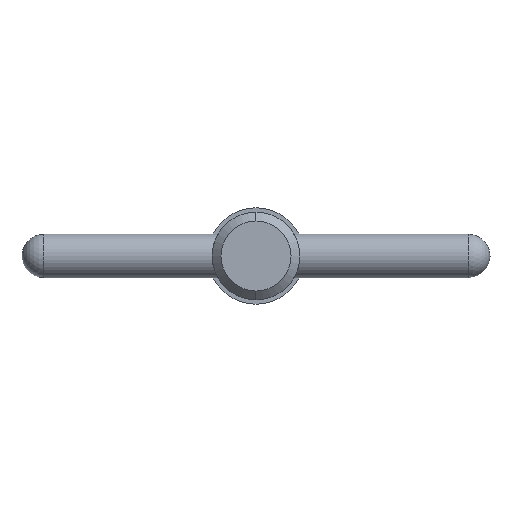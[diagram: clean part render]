
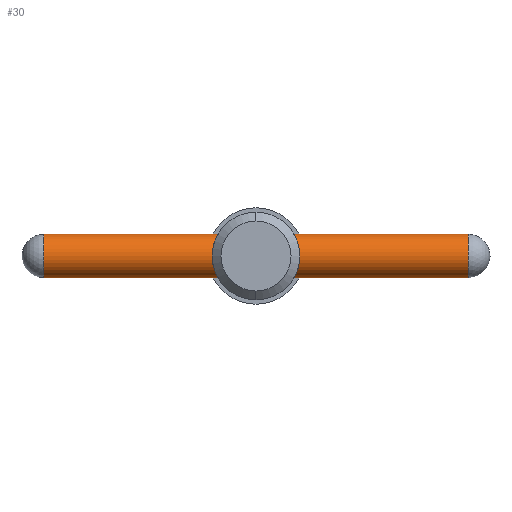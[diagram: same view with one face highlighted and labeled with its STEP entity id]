
A CAD part, left-side view. The second image highlights one B-rep face of the part: STEP entity #30.
In plain terms, the highlighted cylindrical face has radius 1.19 mm (diameter 2.38 mm), a partial arc.
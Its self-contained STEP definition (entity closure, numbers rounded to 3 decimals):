
#29 = ORIENTED_EDGE ( 'NONE', *, *, #542, .F. ) ;
#30 = ADVANCED_FACE ( 'NONE', ( #45 ), #480, .T. ) ;
#39 = EDGE_CURVE ( 'NONE', #651, #554, #640, .T. ) ;
#45 = FACE_OUTER_BOUND ( 'NONE', #644, .T. ) ;
#97 = CARTESIAN_POINT ( 'NONE',  ( 0., 11.51, 1.19 ) ) ;
#103 = CARTESIAN_POINT ( 'NONE',  ( 0., 12.7, 0. ) ) ;
#111 = ORIENTED_EDGE ( 'NONE', *, *, #952, .T. ) ;
#124 = DIRECTION ( 'NONE',  ( 0., 0., -1. ) ) ;
#145 = DIRECTION ( 'NONE',  ( 0., -1., 0. ) ) ;
#158 = VERTEX_POINT ( 'NONE', #97 ) ;
#161 = CARTESIAN_POINT ( 'NONE',  ( 0., 11.51, -1.19 ) ) ;
#173 = CARTESIAN_POINT ( 'NONE',  ( 0., -11.51, -1.19 ) ) ;
#197 = CARTESIAN_POINT ( 'NONE',  ( 0., 12.7, -1.19 ) ) ;
#219 = CARTESIAN_POINT ( 'NONE',  ( 0., -11.51, 1.19 ) ) ;
#277 = DIRECTION ( 'NONE',  ( 0., 0., -1. ) ) ;
#281 = AXIS2_PLACEMENT_3D ( 'NONE', #103, #336, #277 ) ;
#336 = DIRECTION ( 'NONE',  ( 0., -1., 0. ) ) ;
#344 = CARTESIAN_POINT ( 'NONE',  ( 0., -11.51, 0. ) ) ;
#441 = LINE ( 'NONE', #889, #518 ) ;
#452 = AXIS2_PLACEMENT_3D ( 'NONE', #344, #503, #124 ) ;
#480 = CYLINDRICAL_SURFACE ( 'NONE', #281, 1.19 ) ;
#503 = DIRECTION ( 'NONE',  ( 0., 1., 0. ) ) ;
#518 = VECTOR ( 'NONE', #145, 1000. ) ;
#538 = CARTESIAN_POINT ( 'NONE',  ( 0., 11.51, 0. ) ) ;
#542 = EDGE_CURVE ( 'NONE', #158, #565, #441, .T. ) ;
#554 = VERTEX_POINT ( 'NONE', #173 ) ;
#565 = VERTEX_POINT ( 'NONE', #219 ) ;
#570 = CIRCLE ( 'NONE', #587, 1.19 ) ;
#587 = AXIS2_PLACEMENT_3D ( 'NONE', #538, #637, #752 ) ;
#602 = EDGE_CURVE ( 'NONE', #158, #651, #570, .T. ) ;
#637 = DIRECTION ( 'NONE',  ( 0., -1., 0. ) ) ;
#640 = LINE ( 'NONE', #197, #890 ) ;
#644 = EDGE_LOOP ( 'NONE', ( #29, #692, #905, #111 ) ) ;
#651 = VERTEX_POINT ( 'NONE', #161 ) ;
#692 = ORIENTED_EDGE ( 'NONE', *, *, #602, .T. ) ;
#752 = DIRECTION ( 'NONE',  ( 0., 0., -1. ) ) ;
#889 = CARTESIAN_POINT ( 'NONE',  ( 0., 12.7, 1.19 ) ) ;
#890 = VECTOR ( 'NONE', #940, 1000. ) ;
#905 = ORIENTED_EDGE ( 'NONE', *, *, #39, .T. ) ;
#906 = CIRCLE ( 'NONE', #452, 1.19 ) ;
#940 = DIRECTION ( 'NONE',  ( 0., -1., 0. ) ) ;
#952 = EDGE_CURVE ( 'NONE', #554, #565, #906, .T. ) ;
